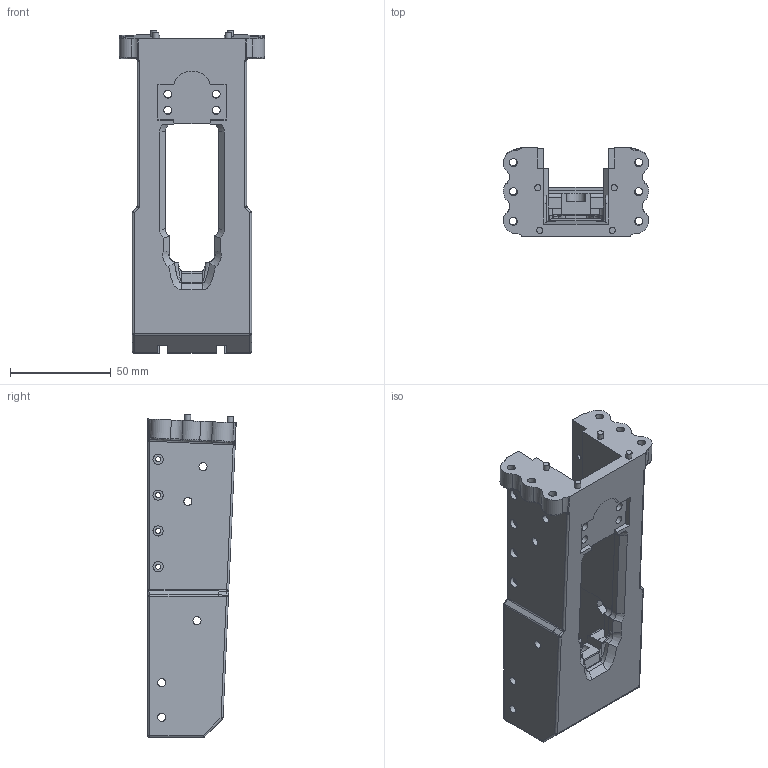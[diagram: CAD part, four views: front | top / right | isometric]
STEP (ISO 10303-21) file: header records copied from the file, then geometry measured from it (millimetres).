
FILE_DESCRIPTION(/* description */ (''),/* implementation_level */ '2;1');
FILE_NAME(/* name */ 'D:\Downloads\Plastikov-v1-2 (2)\STEP\Plastikov v1.0 Front Receiver.stp',/* time_stamp */ '2020-05-01T15:29:55-05:00',/* author */ ('johne'),/* organization */ (''),/* preprocessor_version */ 'ST-DEVELOPER v18',/* originating_system */ 'Autodesk Inventor 2020',/* authorisation */ '');
FILE_SCHEMA (('AUTOMOTIVE_DESIGN { 1 0 10303 214 3 1 1 }'));
Length unit declared in the file: millimetre
Products named in the file (1): Plastikov v0.9 Front Receiver
Bounding box: 72.2 x 43.88 x 160.38 mm (x, y, z)
Volume: 187011.1 mm3; surface area: 45576.2 mm2
Topology: 1 solids, 1 shells, 358 faces, 931 edges, 587 vertices
Faces by surface type: plane 173, cylinder 111, bspline 39, torus 16, sphere 13, cone 6
Full cylindrical faces by diameter (mm): 2.5 x8, 3 x4, 4 x21, 4.05 x1, 5.08 x8
Entity records: 12259 total; most frequent: CARTESIAN_POINT 3334, ORIENTED_EDGE 1846, DIRECTION 1830, EDGE_CURVE 923, AXIS2_PLACEMENT_3D 640, VERTEX_POINT 587, LINE 550, VECTOR 550
